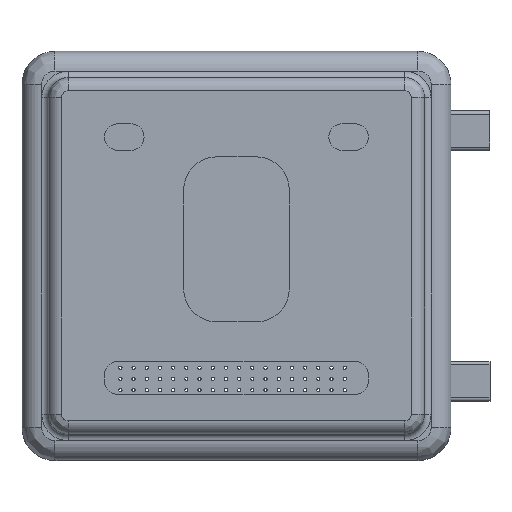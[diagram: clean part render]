
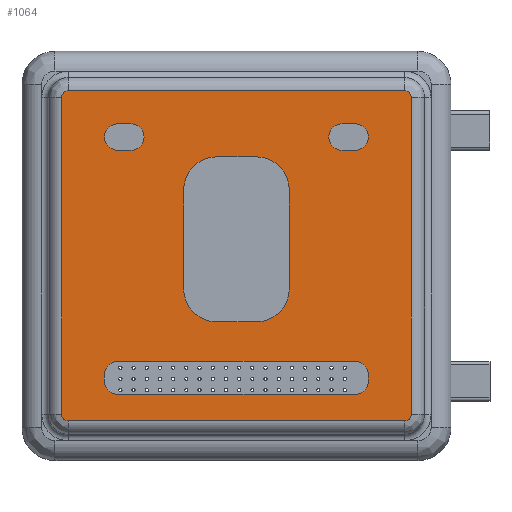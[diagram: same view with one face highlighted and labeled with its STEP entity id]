
A CAD part, top view. The second image highlights one B-rep face of the part: STEP entity #1064.
In plain terms, the highlighted planar face has unit normal (0, 0, 1).
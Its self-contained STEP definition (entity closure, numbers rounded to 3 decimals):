
#507=CIRCLE('',#5976,1.);
#508=CIRCLE('',#5977,1.);
#509=CIRCLE('',#5978,1.);
#510=CIRCLE('',#5979,1.);
#511=CIRCLE('',#5980,5.);
#512=CIRCLE('',#5981,5.);
#513=CIRCLE('',#5982,5.);
#514=CIRCLE('',#5983,5.);
#515=CIRCLE('',#5984,2.);
#516=CIRCLE('',#5985,2.);
#517=CIRCLE('',#5986,2.);
#518=CIRCLE('',#5987,2.);
#519=CIRCLE('',#5988,2.);
#520=CIRCLE('',#5989,2.);
#521=CIRCLE('',#5990,2.);
#522=CIRCLE('',#5991,2.);
#773=FACE_BOUND('',#1782,.T.);
#774=FACE_BOUND('',#1783,.T.);
#775=FACE_BOUND('',#1784,.T.);
#776=FACE_BOUND('',#1785,.T.);
#777=FACE_BOUND('',#1786,.T.);
#1064=ADVANCED_FACE('',(#773,#774,#775,#776,#777),#1359,.T.);
#1359=PLANE('',#5992);
#1782=EDGE_LOOP('',(#2534,#2535,#2536,#2537,#2538,#2539,#2540,#2541));
#1783=EDGE_LOOP('',(#2542,#2543,#2544,#2545,#2546,#2547,#2548,#2549));
#1784=EDGE_LOOP('',(#2550,#2551,#2552,#2553));
#1785=EDGE_LOOP('',(#2554,#2555,#2556,#2557));
#1786=EDGE_LOOP('',(#2558,#2559,#2560,#2561,#2562,#2563,#2564,#2565));
#2534=ORIENTED_EDGE('',*,*,#4535,.T.);
#2535=ORIENTED_EDGE('',*,*,#4536,.T.);
#2536=ORIENTED_EDGE('',*,*,#4537,.T.);
#2537=ORIENTED_EDGE('',*,*,#4538,.T.);
#2538=ORIENTED_EDGE('',*,*,#4539,.T.);
#2539=ORIENTED_EDGE('',*,*,#4540,.T.);
#2540=ORIENTED_EDGE('',*,*,#4541,.T.);
#2541=ORIENTED_EDGE('',*,*,#4542,.T.);
#2542=ORIENTED_EDGE('',*,*,#4543,.T.);
#2543=ORIENTED_EDGE('',*,*,#4544,.T.);
#2544=ORIENTED_EDGE('',*,*,#4545,.T.);
#2545=ORIENTED_EDGE('',*,*,#4546,.T.);
#2546=ORIENTED_EDGE('',*,*,#4547,.T.);
#2547=ORIENTED_EDGE('',*,*,#4548,.T.);
#2548=ORIENTED_EDGE('',*,*,#4549,.T.);
#2549=ORIENTED_EDGE('',*,*,#4550,.T.);
#2550=ORIENTED_EDGE('',*,*,#4551,.T.);
#2551=ORIENTED_EDGE('',*,*,#4552,.T.);
#2552=ORIENTED_EDGE('',*,*,#4553,.T.);
#2553=ORIENTED_EDGE('',*,*,#4554,.T.);
#2554=ORIENTED_EDGE('',*,*,#4555,.T.);
#2555=ORIENTED_EDGE('',*,*,#4556,.T.);
#2556=ORIENTED_EDGE('',*,*,#4557,.T.);
#2557=ORIENTED_EDGE('',*,*,#4558,.T.);
#2558=ORIENTED_EDGE('',*,*,#4559,.T.);
#2559=ORIENTED_EDGE('',*,*,#4560,.T.);
#2560=ORIENTED_EDGE('',*,*,#4561,.T.);
#2561=ORIENTED_EDGE('',*,*,#4562,.T.);
#2562=ORIENTED_EDGE('',*,*,#4563,.T.);
#2563=ORIENTED_EDGE('',*,*,#4564,.T.);
#2564=ORIENTED_EDGE('',*,*,#4565,.T.);
#2565=ORIENTED_EDGE('',*,*,#4566,.T.);
#3960=VERTEX_POINT('',#9070);
#3961=VERTEX_POINT('',#9071);
#3962=VERTEX_POINT('',#9073);
#3963=VERTEX_POINT('',#9075);
#3964=VERTEX_POINT('',#9077);
#3965=VERTEX_POINT('',#9079);
#3966=VERTEX_POINT('',#9081);
#3967=VERTEX_POINT('',#9083);
#3968=VERTEX_POINT('',#9086);
#3969=VERTEX_POINT('',#9087);
#3970=VERTEX_POINT('',#9089);
#3971=VERTEX_POINT('',#9091);
#3972=VERTEX_POINT('',#9093);
#3973=VERTEX_POINT('',#9095);
#3974=VERTEX_POINT('',#9097);
#3975=VERTEX_POINT('',#9099);
#3976=VERTEX_POINT('',#9102);
#3977=VERTEX_POINT('',#9103);
#3978=VERTEX_POINT('',#9105);
#3979=VERTEX_POINT('',#9107);
#3980=VERTEX_POINT('',#9110);
#3981=VERTEX_POINT('',#9111);
#3982=VERTEX_POINT('',#9113);
#3983=VERTEX_POINT('',#9115);
#3984=VERTEX_POINT('',#9118);
#3985=VERTEX_POINT('',#9119);
#3986=VERTEX_POINT('',#9121);
#3987=VERTEX_POINT('',#9123);
#3988=VERTEX_POINT('',#9125);
#3989=VERTEX_POINT('',#9127);
#3990=VERTEX_POINT('',#9129);
#3991=VERTEX_POINT('',#9131);
#4535=EDGE_CURVE('',#3960,#3961,#5181,.T.);
#4536=EDGE_CURVE('',#3961,#3962,#507,.T.);
#4537=EDGE_CURVE('',#3962,#3963,#5182,.T.);
#4538=EDGE_CURVE('',#3963,#3964,#508,.T.);
#4539=EDGE_CURVE('',#3964,#3965,#5183,.T.);
#4540=EDGE_CURVE('',#3965,#3966,#509,.T.);
#4541=EDGE_CURVE('',#3966,#3967,#5184,.T.);
#4542=EDGE_CURVE('',#3967,#3960,#510,.T.);
#4543=EDGE_CURVE('',#3968,#3969,#5185,.T.);
#4544=EDGE_CURVE('',#3969,#3970,#511,.T.);
#4545=EDGE_CURVE('',#3970,#3971,#5186,.T.);
#4546=EDGE_CURVE('',#3971,#3972,#512,.T.);
#4547=EDGE_CURVE('',#3972,#3973,#5187,.T.);
#4548=EDGE_CURVE('',#3973,#3974,#513,.T.);
#4549=EDGE_CURVE('',#3974,#3975,#5188,.T.);
#4550=EDGE_CURVE('',#3975,#3968,#514,.T.);
#4551=EDGE_CURVE('',#3976,#3977,#515,.T.);
#4552=EDGE_CURVE('',#3977,#3978,#5189,.T.);
#4553=EDGE_CURVE('',#3978,#3979,#516,.T.);
#4554=EDGE_CURVE('',#3979,#3976,#5190,.T.);
#4555=EDGE_CURVE('',#3980,#3981,#517,.T.);
#4556=EDGE_CURVE('',#3981,#3982,#5191,.T.);
#4557=EDGE_CURVE('',#3982,#3983,#518,.T.);
#4558=EDGE_CURVE('',#3983,#3980,#5192,.T.);
#4559=EDGE_CURVE('',#3984,#3985,#5193,.T.);
#4560=EDGE_CURVE('',#3985,#3986,#519,.T.);
#4561=EDGE_CURVE('',#3986,#3987,#5194,.T.);
#4562=EDGE_CURVE('',#3987,#3988,#520,.T.);
#4563=EDGE_CURVE('',#3988,#3989,#5195,.T.);
#4564=EDGE_CURVE('',#3989,#3990,#521,.T.);
#4565=EDGE_CURVE('',#3990,#3991,#5196,.T.);
#4566=EDGE_CURVE('',#3991,#3984,#522,.T.);
#5181=LINE('',#9069,#5576);
#5182=LINE('',#9074,#5577);
#5183=LINE('',#9078,#5578);
#5184=LINE('',#9082,#5579);
#5185=LINE('',#9085,#5580);
#5186=LINE('',#9090,#5581);
#5187=LINE('',#9094,#5582);
#5188=LINE('',#9098,#5583);
#5189=LINE('',#9104,#5584);
#5190=LINE('',#9108,#5585);
#5191=LINE('',#9112,#5586);
#5192=LINE('',#9116,#5587);
#5193=LINE('',#9117,#5588);
#5194=LINE('',#9122,#5589);
#5195=LINE('',#9126,#5590);
#5196=LINE('',#9130,#5591);
#5576=VECTOR('',#6894,1.);
#5577=VECTOR('',#6897,1.);
#5578=VECTOR('',#6900,1.);
#5579=VECTOR('',#6903,1.);
#5580=VECTOR('',#6906,1.);
#5581=VECTOR('',#6909,1.);
#5582=VECTOR('',#6912,1.);
#5583=VECTOR('',#6915,1.);
#5584=VECTOR('',#6920,1.);
#5585=VECTOR('',#6923,1.);
#5586=VECTOR('',#6926,1.);
#5587=VECTOR('',#6929,1.);
#5588=VECTOR('',#6930,1.);
#5589=VECTOR('',#6933,1.);
#5590=VECTOR('',#6936,1.);
#5591=VECTOR('',#6939,1.);
#5976=AXIS2_PLACEMENT_3D('',#9072,#6895,#6896);
#5977=AXIS2_PLACEMENT_3D('',#9076,#6898,#6899);
#5978=AXIS2_PLACEMENT_3D('',#9080,#6901,#6902);
#5979=AXIS2_PLACEMENT_3D('',#9084,#6904,#6905);
#5980=AXIS2_PLACEMENT_3D('',#9088,#6907,#6908);
#5981=AXIS2_PLACEMENT_3D('',#9092,#6910,#6911);
#5982=AXIS2_PLACEMENT_3D('',#9096,#6913,#6914);
#5983=AXIS2_PLACEMENT_3D('',#9100,#6916,#6917);
#5984=AXIS2_PLACEMENT_3D('',#9101,#6918,#6919);
#5985=AXIS2_PLACEMENT_3D('',#9106,#6921,#6922);
#5986=AXIS2_PLACEMENT_3D('',#9109,#6924,#6925);
#5987=AXIS2_PLACEMENT_3D('',#9114,#6927,#6928);
#5988=AXIS2_PLACEMENT_3D('',#9120,#6931,#6932);
#5989=AXIS2_PLACEMENT_3D('',#9124,#6934,#6935);
#5990=AXIS2_PLACEMENT_3D('',#9128,#6937,#6938);
#5991=AXIS2_PLACEMENT_3D('',#9132,#6940,#6941);
#5992=AXIS2_PLACEMENT_3D('',#9133,#6942,#6943);
#6894=DIRECTION('',(1.,0.,0.));
#6895=DIRECTION('',(0.,0.,1.));
#6896=DIRECTION('',(1.,0.,0.));
#6897=DIRECTION('',(0.,1.,0.));
#6898=DIRECTION('',(0.,0.,1.));
#6899=DIRECTION('',(1.,0.,0.));
#6900=DIRECTION('',(-1.,0.,0.));
#6901=DIRECTION('',(0.,0.,1.));
#6902=DIRECTION('',(1.,0.,0.));
#6903=DIRECTION('',(0.,-1.,0.));
#6904=DIRECTION('',(0.,0.,1.));
#6905=DIRECTION('',(1.,0.,0.));
#6906=DIRECTION('',(0.,-1.,0.));
#6907=DIRECTION('',(0.,0.,-1.));
#6908=DIRECTION('',(1.,0.,0.));
#6909=DIRECTION('',(-1.,0.,0.));
#6910=DIRECTION('',(0.,0.,-1.));
#6911=DIRECTION('',(1.,0.,0.));
#6912=DIRECTION('',(0.,1.,0.));
#6913=DIRECTION('',(0.,0.,-1.));
#6914=DIRECTION('',(1.,0.,0.));
#6915=DIRECTION('',(1.,0.,0.));
#6916=DIRECTION('',(0.,0.,-1.));
#6917=DIRECTION('',(1.,0.,0.));
#6918=DIRECTION('',(0.,0.,-1.));
#6919=DIRECTION('',(1.,0.,0.));
#6920=DIRECTION('',(-1.,0.,0.));
#6921=DIRECTION('',(0.,0.,-1.));
#6922=DIRECTION('',(1.,0.,0.));
#6923=DIRECTION('',(1.,0.,0.));
#6924=DIRECTION('',(0.,0.,-1.));
#6925=DIRECTION('',(1.,0.,0.));
#6926=DIRECTION('',(-1.,0.,0.));
#6927=DIRECTION('',(0.,0.,-1.));
#6928=DIRECTION('',(1.,0.,0.));
#6929=DIRECTION('',(1.,0.,0.));
#6930=DIRECTION('',(0.,-1.,0.));
#6931=DIRECTION('',(0.,0.,-1.));
#6932=DIRECTION('',(1.,0.,0.));
#6933=DIRECTION('',(-1.,0.,0.));
#6934=DIRECTION('',(0.,0.,-1.));
#6935=DIRECTION('',(1.,0.,0.));
#6936=DIRECTION('',(0.,1.,0.));
#6937=DIRECTION('',(0.,0.,-1.));
#6938=DIRECTION('',(1.,0.,0.));
#6939=DIRECTION('',(1.,0.,0.));
#6940=DIRECTION('',(0.,0.,-1.));
#6941=DIRECTION('',(1.,0.,0.));
#6942=DIRECTION('',(0.,0.,1.));
#6943=DIRECTION('',(1.,0.,0.));
#9069=CARTESIAN_POINT('',(25.5,-25.,18.));
#9070=CARTESIAN_POINT('',(-25.5,-25.,18.));
#9071=CARTESIAN_POINT('',(25.5,-25.,18.));
#9072=CARTESIAN_POINT('',(25.5,-24.,18.));
#9073=CARTESIAN_POINT('',(26.5,-24.,18.));
#9074=CARTESIAN_POINT('',(26.5,24.,18.));
#9075=CARTESIAN_POINT('',(26.5,24.,18.));
#9076=CARTESIAN_POINT('',(25.5,24.,18.));
#9077=CARTESIAN_POINT('',(25.5,25.,18.));
#9078=CARTESIAN_POINT('',(-25.5,25.,18.));
#9079=CARTESIAN_POINT('',(-25.5,25.,18.));
#9080=CARTESIAN_POINT('',(-25.5,24.,18.));
#9081=CARTESIAN_POINT('',(-26.5,24.,18.));
#9082=CARTESIAN_POINT('',(-26.5,-24.,18.));
#9083=CARTESIAN_POINT('',(-26.5,-24.,18.));
#9084=CARTESIAN_POINT('',(-25.5,-24.,18.));
#9085=CARTESIAN_POINT('',(8.,0.,18.));
#9086=CARTESIAN_POINT('',(8.,10.,18.));
#9087=CARTESIAN_POINT('',(8.,-5.,18.));
#9088=CARTESIAN_POINT('',(3.,-5.,18.));
#9089=CARTESIAN_POINT('',(3.,-10.,18.));
#9090=CARTESIAN_POINT('',(0.,-10.,18.));
#9091=CARTESIAN_POINT('',(-3.,-10.,18.));
#9092=CARTESIAN_POINT('',(-3.,-5.,18.));
#9093=CARTESIAN_POINT('',(-8.,-5.,18.));
#9094=CARTESIAN_POINT('',(-8.,0.,18.));
#9095=CARTESIAN_POINT('',(-8.,10.,18.));
#9096=CARTESIAN_POINT('',(-3.,10.,18.));
#9097=CARTESIAN_POINT('',(-3.,15.,18.));
#9098=CARTESIAN_POINT('',(0.,15.,18.));
#9099=CARTESIAN_POINT('',(3.,15.,18.));
#9100=CARTESIAN_POINT('',(3.,10.,18.));
#9101=CARTESIAN_POINT('',(-16.,18.,18.));
#9102=CARTESIAN_POINT('',(-16.,20.,18.));
#9103=CARTESIAN_POINT('',(-16.,16.,18.));
#9104=CARTESIAN_POINT('',(0.,16.,18.));
#9105=CARTESIAN_POINT('',(-18.,16.,18.));
#9106=CARTESIAN_POINT('',(-18.,18.,18.));
#9107=CARTESIAN_POINT('',(-18.,20.,18.));
#9108=CARTESIAN_POINT('',(0.,20.,18.));
#9109=CARTESIAN_POINT('',(18.,18.,18.));
#9110=CARTESIAN_POINT('',(18.,20.,18.));
#9111=CARTESIAN_POINT('',(18.,16.,18.));
#9112=CARTESIAN_POINT('',(0.,16.,18.));
#9113=CARTESIAN_POINT('',(16.,16.,18.));
#9114=CARTESIAN_POINT('',(16.,18.,18.));
#9115=CARTESIAN_POINT('',(16.,20.,18.));
#9116=CARTESIAN_POINT('',(0.,20.,18.));
#9117=CARTESIAN_POINT('',(20.,0.,18.));
#9118=CARTESIAN_POINT('',(20.,-18.,18.));
#9119=CARTESIAN_POINT('',(20.,-19.,18.));
#9120=CARTESIAN_POINT('',(18.,-19.,18.));
#9121=CARTESIAN_POINT('',(18.,-21.,18.));
#9122=CARTESIAN_POINT('',(0.,-21.,18.));
#9123=CARTESIAN_POINT('',(-18.,-21.,18.));
#9124=CARTESIAN_POINT('',(-18.,-19.,18.));
#9125=CARTESIAN_POINT('',(-20.,-19.,18.));
#9126=CARTESIAN_POINT('',(-20.,0.,18.));
#9127=CARTESIAN_POINT('',(-20.,-18.,18.));
#9128=CARTESIAN_POINT('',(-18.,-18.,18.));
#9129=CARTESIAN_POINT('',(-18.,-16.,18.));
#9130=CARTESIAN_POINT('',(0.,-16.,18.));
#9131=CARTESIAN_POINT('',(18.,-16.,18.));
#9132=CARTESIAN_POINT('',(18.,-18.,18.));
#9133=CARTESIAN_POINT('',(0.,0.,18.));
